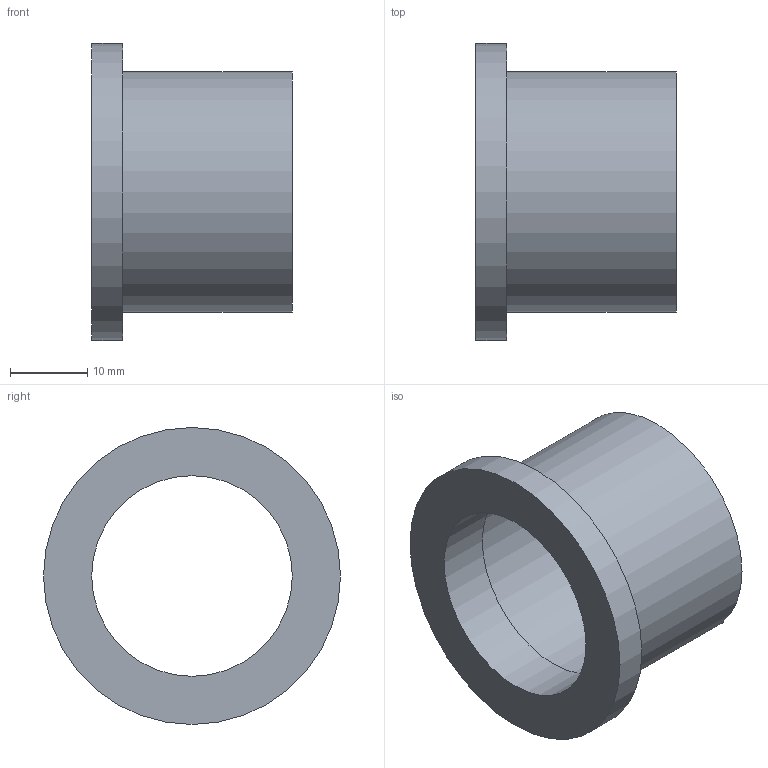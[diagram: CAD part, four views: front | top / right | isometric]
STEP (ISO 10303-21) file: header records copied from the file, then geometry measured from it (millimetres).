
FILE_DESCRIPTION((''),'2;1');
FILE_NAME('G:\Engineering\Public\RYSUNKI\SANHA POLSKA\4372\STEP\14372_28-114(1).stp','2014-03-31T12:55:16',('haldrzynski'),(''),'Autodesk Inventor 2009','Autodesk Inventor 2009','');
FILE_SCHEMA(('AUTOMOTIVE_DESIGN { 1 0 10303 214 1 1 1 1 }'));
Length unit declared in the file: millimetre
Products named in the file (1): 14372_28-114(1)
Bounding box: 26 x 38.5 x 38.5 mm (x, y, z)
Volume: 6060.7 mm3; surface area: 6149.7 mm2
Topology: 1 solids, 1 shells, 8 faces, 12 edges, 8 vertices
Faces by surface type: cylinder 4, plane 4
Full cylindrical faces by diameter (mm): 26 x1, 28 x1, 31.2 x1, 38.5 x1
Entity records: 194 total; most frequent: DIRECTION 34, CARTESIAN_POINT 25, AXIS2_PLACEMENT_3D 17, ORIENTED_EDGE 16, EDGE_LOOP 16, VERTEX_POINT 8, CIRCLE 8, EDGE_CURVE 8
